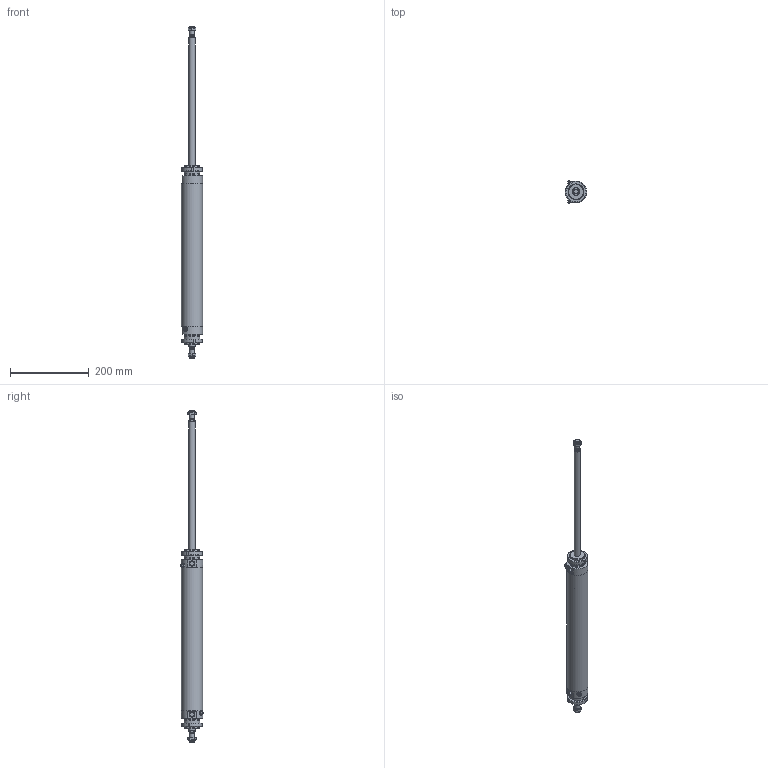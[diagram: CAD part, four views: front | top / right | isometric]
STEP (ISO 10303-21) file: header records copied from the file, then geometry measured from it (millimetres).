
FILE_DESCRIPTION(/* description */ (''),/* implementation_level */ '2;1');
FILE_NAME(/* name */ 'I:\Area Tecnica\Documenti\A-Manieri\_Inventor\12X\12X#S_###_####_#_#\12XDS_050_0320_#_#.stp',/* time_stamp */ '2015-05-13T08:20:47+02:00',/* author */ ('maniean1'),/* organization */ ('Pneumax S.p.A.'),/* preprocessor_version */ 'ST-DEVELOPER v15.2',/* originating_system */ 'Autodesk Inventor 2014',/* authorisation */ '');
FILE_SCHEMA (('AUTOMOTIVE_DESIGN { 1 0 10303 214 3 1 1 }'));
Length unit declared in the file: millimetre
Products named in the file (6): C1250_619-0320; 12X50_606; SP12X50_0320; 12X_50_11; G12X_050_05; 12XDS_050_0320_#_#
Bounding box: 54 x 57.75 x 842 mm (x, y, z)
Volume: 512283.8 mm3; surface area: 206081.7 mm2
Topology: 8 solids, 8 shells, 151 faces, 345 edges, 222 vertices
Faces by surface type: plane 78, cylinder 37, cone 34, torus 2
Full cylindrical faces by diameter (mm): 5 x2, 10.2 x2, 11 x2, 11.4 x2, 12 x4, 14 x2, 15.6 x2, 16 x2, 38.2 x2, 40 x6, 50 x2, 54 x3
Entity records: 2556 total; most frequent: CARTESIAN_POINT 505, DIRECTION 428, ORIENTED_EDGE 342, AXIS2_PLACEMENT_3D 182, EDGE_CURVE 171, EDGE_LOOP 144, VERTEX_POINT 129, ADVANCED_FACE 94
